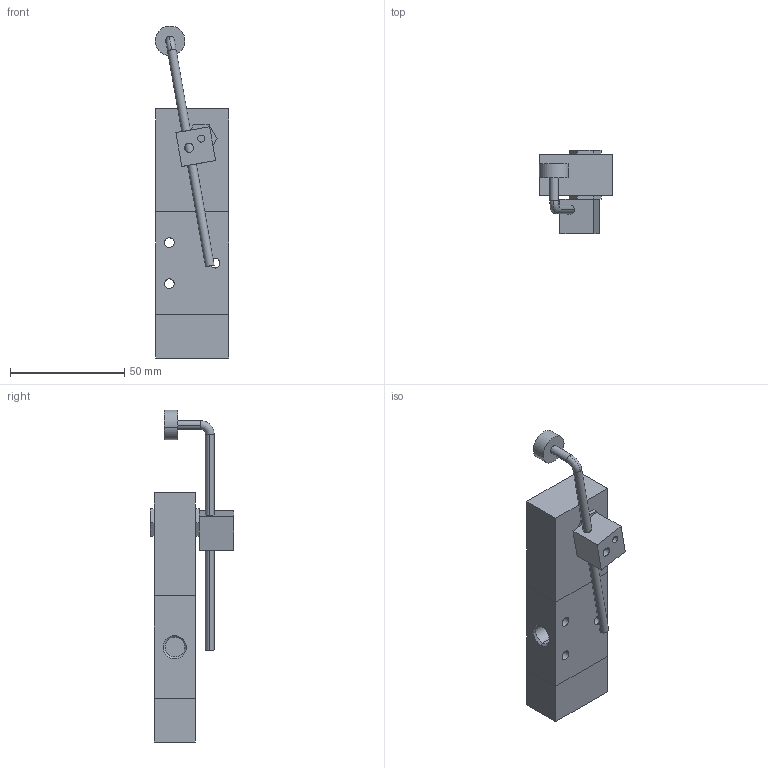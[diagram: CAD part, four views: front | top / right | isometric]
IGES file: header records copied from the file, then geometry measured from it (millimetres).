
Global section: file name: No Iges File Name specified; native system: AutoDesk Inventor R11.0; preprocessor: AutoDesk Inventor Iges Exporter R11.0; author: No Author specified; organization: No Organization specified; date: 20061219.113818; units: millimetre
Bounding box: 32.14 x 36.5 x 145.28 mm (x, y, z)
Volume: 65831.4 mm3; surface area: 17224.2 mm2
Topology: 3 solids, 3 shells, 94 faces, 218 edges, 140 vertices
Faces by surface type: plane 45, revolution 24, bspline 15, cylinder 8, torus 2
